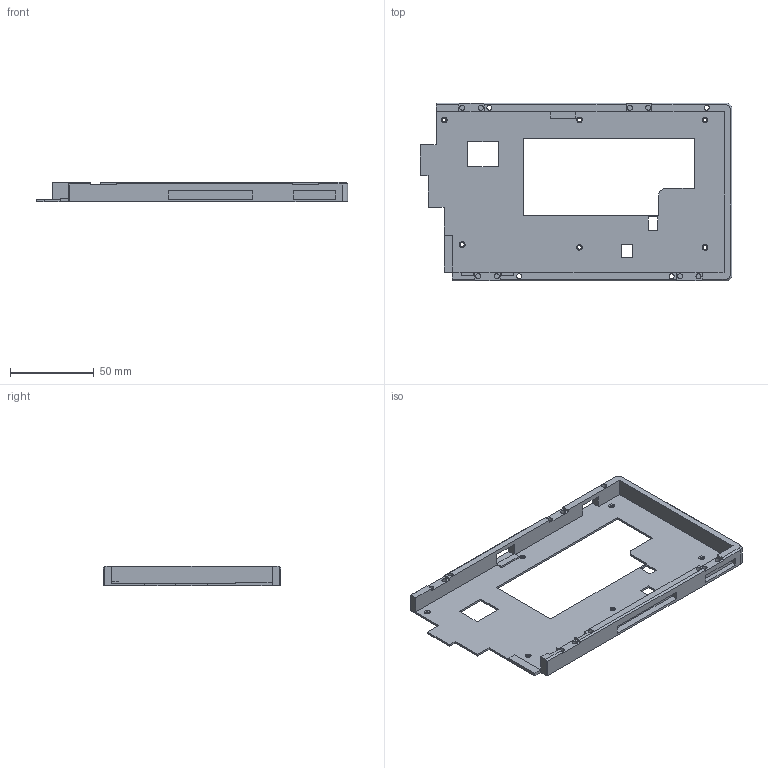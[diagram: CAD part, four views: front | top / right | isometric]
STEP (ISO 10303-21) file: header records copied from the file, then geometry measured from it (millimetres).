
FILE_DESCRIPTION(/* description */ (''),/* implementation_level */ '2;1');
FILE_NAME(/* name */ '',/* time_stamp */ '2025-12-16T10:08:01+08:00',/* author */ ('HELLO'),/* organization */ (''),/* preprocessor_version */ 'ST-DEVELOPER v20',/* originating_system */ 'Autodesk Inventor 2024',/* authorisation */ '');
FILE_SCHEMA (('AUTOMOTIVE_DESIGN { 1 0 10303 214 3 1 1 }'));
Length unit declared in the file: millimetre
Products named in the file (1): 右底座1
Bounding box: 186.07 x 106.05 x 11.6 mm (x, y, z)
Volume: 35206.7 mm3; surface area: 39578.8 mm2
Topology: 1 solids, 1 shells, 141 faces, 374 edges, 243 vertices
Faces by surface type: plane 104, cylinder 25, cone 12
Full cylindrical faces by diameter (mm): 2.3 x6, 3 x12, 7.2 x2
Entity records: 4435 total; most frequent: CARTESIAN_POINT 759, ORIENTED_EDGE 748, DIRECTION 726, EDGE_CURVE 374, LINE 306, VECTOR 306, VERTEX_POINT 243, AXIS2_PLACEMENT_3D 210
